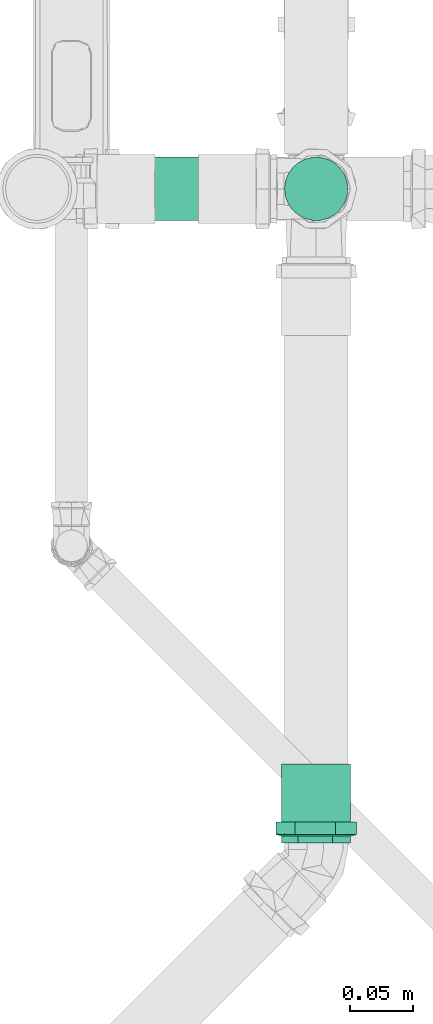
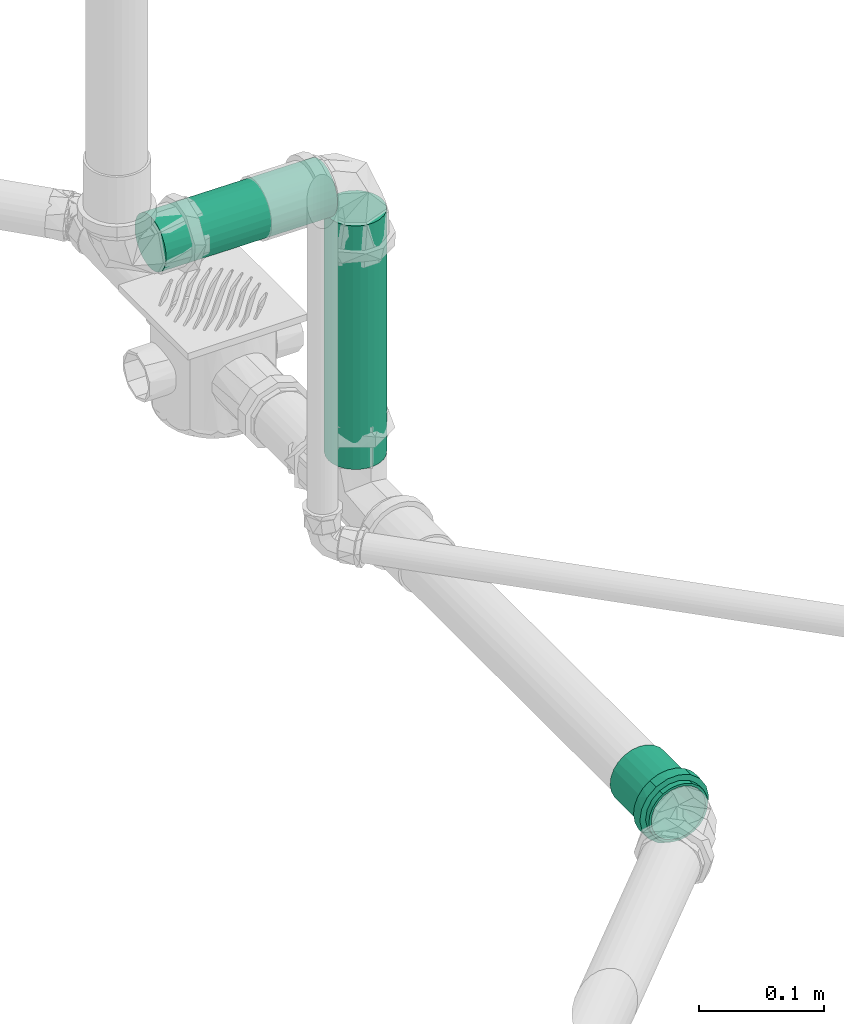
# One storey, part 164 of 589: 2 flow segments, 1 flow fitting.
"""IFC2X3 building model written with IfcOpenShell, lengths in millimetres."""

from ifc_helpers import new_model, entity, si_unit, converted_unit, derived_unit, direction, frame, frame_2d, origin, origin_2d_with_axis, place, context, subcontext, project, spatial, circle, extrude, faceted_brep, source, transform, mapped, material, type_object, type_shapes, element, save


model = new_model("IFC2X3")

# Units and contexts
model_context = context("Model", 3, precision=0.01, world=origin(), true_north=direction((6.123031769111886e-17, 1.0)))
body_context = subcontext(model_context, "Body", "Model", "MODEL_VIEW")
ifc_project = project(units=[si_unit("LENGTHUNIT", "METRE", prefix="MILLI"), si_unit("AREAUNIT", "SQUARE_METRE"), si_unit("VOLUMEUNIT", "CUBIC_METRE"), converted_unit("PLANEANGLEUNIT", "DEGREE", entity("IfcRatioMeasure", 0.017453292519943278), si_unit("PLANEANGLEUNIT", "RADIAN"), dimensions=[0, 0, 0, 0, 0, 0, 0]), si_unit("MASSUNIT", "GRAM", prefix="KILO"), derived_unit("MASSDENSITYUNIT", [(si_unit("MASSUNIT", "GRAM", prefix="KILO"), 1), (si_unit("LENGTHUNIT", "METRE"), -3)]), derived_unit("IONCONCENTRATIONUNIT", [(si_unit("MASSUNIT", "GRAM", prefix="KILO"), 1), (si_unit("LENGTHUNIT", "METRE"), -3)]), derived_unit("MOMENTOFINERTIAUNIT", [(si_unit("LENGTHUNIT", "METRE"), 4)]), si_unit("TIMEUNIT", "SECOND"), si_unit("FREQUENCYUNIT", "HERTZ"), si_unit("THERMODYNAMICTEMPERATUREUNIT", "DEGREE_CELSIUS"), derived_unit("THERMALTRANSMITTANCEUNIT", [(si_unit("MASSUNIT", "GRAM", prefix="KILO"), 1), (si_unit("THERMODYNAMICTEMPERATUREUNIT", "KELVIN"), -1), (si_unit("TIMEUNIT", "SECOND"), -3)]), derived_unit("THERMALCONDUCTANCEUNIT", [(si_unit("MASSUNIT", "GRAM", prefix="KILO"), 1), (si_unit("THERMODYNAMICTEMPERATUREUNIT", "KELVIN"), -1), (si_unit("TIMEUNIT", "SECOND"), -3), (si_unit("LENGTHUNIT", "METRE"), 1)]), derived_unit("VOLUMETRICFLOWRATEUNIT", [(si_unit("LENGTHUNIT", "METRE"), 3), (si_unit("TIMEUNIT", "SECOND"), -1)]), derived_unit("MASSFLOWRATEUNIT", [(si_unit("MASSUNIT", "GRAM", prefix="KILO"), 1), (si_unit("TIMEUNIT", "SECOND"), -1)]), derived_unit("ROTATIONALFREQUENCYUNIT", [(si_unit("TIMEUNIT", "SECOND"), -1)]), si_unit("ELECTRICCURRENTUNIT", "AMPERE"), si_unit("ELECTRICVOLTAGEUNIT", "VOLT"), si_unit("POWERUNIT", "WATT"), si_unit("FORCEUNIT", "NEWTON", prefix="KILO"), si_unit("ILLUMINANCEUNIT", "LUX"), si_unit("LUMINOUSFLUXUNIT", "LUMEN"), si_unit("LUMINOUSINTENSITYUNIT", "CANDELA"), derived_unit("USERDEFINED", [(si_unit("MASSUNIT", "GRAM", prefix="KILO"), -1), (si_unit("LENGTHUNIT", "METRE"), -2), (si_unit("TIMEUNIT", "SECOND"), 3), (si_unit("LUMINOUSFLUXUNIT", "LUMEN"), 1)]), derived_unit("USERDEFINED", [(si_unit("MASSUNIT", "GRAM", prefix="KILO"), 1), (si_unit("TIMEUNIT", "SECOND"), -3), (si_unit("LENGTHUNIT", "METRE"), 3), (si_unit("ELECTRICCURRENTUNIT", "AMPERE"), -2)]), derived_unit("SOUNDPOWERUNIT", [(si_unit("MASSUNIT", "GRAM", prefix="KILO"), 1), (si_unit("TIMEUNIT", "SECOND"), -3), (si_unit("LENGTHUNIT", "METRE"), 2)]), derived_unit("SOUNDPRESSUREUNIT", [(si_unit("MASSUNIT", "GRAM", prefix="KILO"), 1), (si_unit("LENGTHUNIT", "METRE"), -1), (si_unit("TIMEUNIT", "SECOND"), -2)]), derived_unit("LINEARVELOCITYUNIT", [(si_unit("LENGTHUNIT", "METRE"), 1), (si_unit("TIMEUNIT", "SECOND"), -1)]), si_unit("PRESSUREUNIT", "PASCAL"), derived_unit("USERDEFINED", [(si_unit("MASSUNIT", "GRAM", prefix="KILO"), 1), (si_unit("LENGTHUNIT", "METRE"), -2), (si_unit("TIMEUNIT", "SECOND"), -2)]), derived_unit("LINEARFORCEUNIT", [(si_unit("MASSUNIT", "GRAM", prefix="KILO"), 1), (si_unit("TIMEUNIT", "SECOND"), -2)]), derived_unit("PLANARFORCEUNIT", [(si_unit("MASSUNIT", "GRAM", prefix="KILO"), 1), (si_unit("LENGTHUNIT", "METRE"), -1), (si_unit("TIMEUNIT", "SECOND"), -2)]), derived_unit("SPECIFICHEATCAPACITYUNIT", [(si_unit("THERMODYNAMICTEMPERATUREUNIT", "KELVIN"), -1), (si_unit("LENGTHUNIT", "METRE"), 2), (si_unit("TIMEUNIT", "SECOND"), -2)]), derived_unit("HEATINGVALUEUNIT", [(si_unit("LENGTHUNIT", "METRE"), 2), (si_unit("TIMEUNIT", "SECOND"), -2)]), derived_unit("VAPORPERMEABILITYUNIT", [(si_unit("LENGTHUNIT", "METRE"), -1), (si_unit("TIMEUNIT", "SECOND"), 1)]), derived_unit("DYNAMICVISCOSITYUNIT", [(si_unit("MASSUNIT", "GRAM", prefix="KILO"), 1), (si_unit("TIMEUNIT", "SECOND"), -1), (si_unit("LENGTHUNIT", "METRE"), -1)]), derived_unit("THERMALEXPANSIONCOEFFICIENTUNIT", [(si_unit("THERMODYNAMICTEMPERATUREUNIT", "KELVIN"), -1)]), derived_unit("MODULUSOFELASTICITYUNIT", [(si_unit("MASSUNIT", "GRAM", prefix="KILO"), 1), (si_unit("LENGTHUNIT", "METRE"), -1), (si_unit("TIMEUNIT", "SECOND"), -2)]), derived_unit("ISOTHERMALMOISTURECAPACITYUNIT", [(si_unit("LENGTHUNIT", "METRE"), 3), (si_unit("MASSUNIT", "GRAM", prefix="KILO"), -1)]), derived_unit("MOISTUREDIFFUSIVITYUNIT", [(si_unit("TIMEUNIT", "SECOND"), -1), (si_unit("LENGTHUNIT", "METRE"), 2)])], contexts=[model_context])

# Site, building, storey
site_placement = place(None, origin())
site = spatial("IfcSite", under=ifc_project, at=site_placement, Name="Default", CompositionType="ELEMENT")
building_placement = place(site_placement, origin())
building = spatial("IfcBuilding", under=site, at=building_placement, CompositionType="ELEMENT")
storey_placement = place(building_placement, frame((0.0, 0.0, 100.0)))
storey = spatial("IfcBuildingStorey", under=building, at=storey_placement, Name="TÉRREO", CompositionType="ELEMENT", Elevation=100.0)

# Flow segments
pipe_segment_type = type_object("IfcPipeSegmentType", Name="Tipos de tubos:PVC Esgoto Série Normal", PredefinedType="NOTDEFINED")
flow_segment_1_placement = place(storey_placement, origin())
element("IfcFlowSegment", 1, at=flow_segment_1_placement, inside=storey, type_object=pipe_segment_type, Name="Tipos de tubos:PVC Esgoto Série Normal", ObjectType="Tipos de tubos:PVC Esgoto Série Normal", context=body_context, shape_type="SweptSolid", body=[
    extrude(circle(Radius=25.0, at=origin_2d_with_axis()), frame((11855.917911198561, -6666.695187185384, 81.89060246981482), z_axis=(0.9999500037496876, 0.0, -0.00999950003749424), x_axis=(0.0, 1.0, 0.0)), (0.0, 0.0, 1.0), 158.1283997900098),
])
flow_segment_2_placement = place(storey_placement, origin())
element("IfcFlowSegment", 2, at=flow_segment_2_placement, inside=storey, type_object=pipe_segment_type, Name="Tipos de tubos:PVC Esgoto Série Normal", ObjectType="Tipos de tubos:PVC Esgoto Série Normal", context=body_context, shape_type="SweptSolid", body=[
    extrude(circle(Radius=25.0, at=frame_2d((0.0, -1.0828671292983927e-12), x_axis=(1.0, 0.0))), frame((12044.978158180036, -6666.695187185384, -188.3106242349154), z_axis=(0.0, 0.0, 1.0), x_axis=(-1.0, 0.0, 0.0)), (0.0, 0.0, 1.0), 237.36932426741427),
])

# Flow fitting
ifc_material = material(Name="PVC Série Normal")
pipe_fitting_type = type_object("IfcPipeFittingType", Name="PVC Esgoto_Luva Simples para Conexão_Rodrigo MEP:Standard", PredefinedType="NOTDEFINED", material=ifc_material)
shared_shape = source(origin(), body_context, "Body", "Brep", [
    faceted_brep([(16.599999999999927, 15.900000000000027, -27.53960784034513), (16.599999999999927, 22.485995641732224, -22.485995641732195), (16.599999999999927, 13.599999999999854, -23.555890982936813), (16.599999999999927, 7.039878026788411, -26.273182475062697), (16.599999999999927, 8.2304456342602, -30.71644127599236), (16.599999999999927, 19.233304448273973, -19.233304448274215), (16.599999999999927, 27.539607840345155, -15.899999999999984), (16.599999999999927, 23.55589098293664, -13.600000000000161), (16.599999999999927, 26.273182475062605, -7.03987802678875), (16.599999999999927, 30.716441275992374, -8.230445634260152), (16.599999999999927, 27.2, 0.0), (16.599999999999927, 31.8, 0.0), (16.599999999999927, 26.273182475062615, 7.0398780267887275), (16.599999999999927, 30.71644127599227, 8.23044563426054), (16.599999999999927, 23.555890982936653, 13.60000000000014), (16.599999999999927, 27.539607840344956, 15.900000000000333), (16.599999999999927, 19.233304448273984, 19.2333044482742), (16.599999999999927, 22.485995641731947, 22.48599564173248), (16.599999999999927, 13.599999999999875, 23.555890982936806), (16.599999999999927, 15.899999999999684, 27.53960784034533), (16.599999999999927, 7.039878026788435, 26.27318247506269), (16.599999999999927, 8.230445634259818, 30.716441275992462), (16.599999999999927, 0.0, 27.2), (16.599999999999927, 0.0, 31.8), (16.599999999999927, -7.039878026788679, 26.273182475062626), (16.599999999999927, -8.230445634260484, 30.716441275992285), (16.599999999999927, -13.600000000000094, 23.555890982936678), (16.599999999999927, -15.900000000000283, 27.53960784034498), (16.599999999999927, -19.23330444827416, 19.233304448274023), (16.599999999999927, -22.485995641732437, 22.48599564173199), (16.599999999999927, -23.55589098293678, 13.59999999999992), (16.599999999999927, -27.539607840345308, 15.899999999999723), (16.599999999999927, -30.71644127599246, 8.230445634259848), (16.599999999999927, -26.273182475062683, 7.039878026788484), (16.599999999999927, -31.8, 0.0), (16.599999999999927, -27.2, 0.0), (16.599999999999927, -30.71644127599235, -8.23044563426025), (16.599999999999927, -26.273182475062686, -7.03987802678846), (16.599999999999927, -27.53960784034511, -15.90000000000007), (16.599999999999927, -23.55589098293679, -13.599999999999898), (16.599999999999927, -22.485995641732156, -22.485995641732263), (16.599999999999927, -19.233304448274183, -19.233304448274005), (16.599999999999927, -15.899999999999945, -27.53960784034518), (16.599999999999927, -13.600000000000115, -23.555890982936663), (16.599999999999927, -8.230445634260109, -30.716441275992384), (16.599999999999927, -7.039878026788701, -26.273182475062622), (16.599999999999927, 0.0, -31.8), (16.599999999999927, 0.0, -27.2), (6.500000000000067, -10.708108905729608, 29.429219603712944), (6.500000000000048, -24.359073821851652, 20.44200387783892), (6.500000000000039, -27.120498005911, 15.6595386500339), (6.50000000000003, -29.881922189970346, 10.877073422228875), (6.500000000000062, -15.89769721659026, 27.540937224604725), (6.500000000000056, -20.128385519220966, 23.991470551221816), (6.50000000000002, -30.840961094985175, 5.438536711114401), (6.5000000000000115, -31.8, 0.0), (6.50000000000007, -5.518520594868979, 31.317501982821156), (6.500000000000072, 5.526376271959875, 31.316116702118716), (6.50000000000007, 0.00392783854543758, 31.316809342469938), (6.500000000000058, 20.134403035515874, 23.986420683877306), (6.500000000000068, 10.715490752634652, 29.42653259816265), (6.500000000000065, 15.904605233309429, 27.536948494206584), (6.500000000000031, 29.8846497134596, 10.869577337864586), (6.500000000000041, 27.12442527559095, 15.652735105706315), (6.5000000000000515, 24.364200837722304, 20.435892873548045), (6.5000000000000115, 31.8, 0.0), (6.499999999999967, 24.364200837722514, -20.435892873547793), (6.499999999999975, 27.12442527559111, -15.652735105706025), (6.499999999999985, 29.884649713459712, -10.869577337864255), (6.4999999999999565, 15.904605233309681, -27.53694849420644), (6.499999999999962, 20.134403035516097, -23.986420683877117), (6.499999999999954, 10.715490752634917, -29.42653259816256), (6.499999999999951, 5.526376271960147, -31.31611670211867), (6.499999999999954, -5.518520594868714, -31.317501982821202), (6.499999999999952, 0.003927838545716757, -31.316809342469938), (6.499999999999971, -20.128385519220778, -23.99147055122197), (6.499999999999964, -15.897697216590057, -27.54093722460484), (6.499999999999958, -10.70810890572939, -29.42921960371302), (6.499999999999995, -29.881922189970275, -10.877073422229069), (6.499999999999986, -27.12049800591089, -15.659538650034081), (6.499999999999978, -24.359073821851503, -20.442003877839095), (6.500000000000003, -30.840961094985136, -5.438536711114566), (6.499999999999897, -30.696173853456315, -6.259599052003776), (62.0, 13.600000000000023, -23.55589098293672), (62.0, 19.233304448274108, -19.23330444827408), (62.0, 12.499999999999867, -21.650635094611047), (62.0, 6.470476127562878, -24.14814565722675), (62.0, 7.039878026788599, -26.273182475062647), (62.0, 17.677669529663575, -17.677669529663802), (62.0, 23.55589098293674, -13.599999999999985), (62.0, 21.65063509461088, -12.50000000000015), (62.0, 24.148145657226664, -6.470476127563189), (62.0, 26.27318247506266, -7.039878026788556), (62.0, 25.0, 0.0), (62.0, 27.2, 0.0), (62.0, 24.148145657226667, 6.4704761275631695), (62.0, 26.273182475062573, 7.03987802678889), (62.0, 21.650635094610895, 12.500000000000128), (62.0, 23.555890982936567, 13.600000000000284), (62.0, 17.67766952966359, 17.67766952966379), (62.0, 19.233304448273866, 19.233304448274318), (62.0, 12.499999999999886, 21.650635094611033), (62.0, 13.59999999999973, 23.55589098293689), (62.0, 6.4704761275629, 24.14814565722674), (62.0, 7.039878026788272, 26.273182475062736), (62.0, 0.0, 25.0), (62.0, 0.0, 27.2), (62.0, -6.470476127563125, 24.148145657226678), (62.0, -7.039878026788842, 26.273182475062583), (62.0, -12.500000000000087, 21.650635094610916), (62.0, -13.600000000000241, 23.555890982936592), (62.0, -17.677669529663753, 17.677669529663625), (62.0, -19.233304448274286, 19.2333044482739), (62.0, -21.65063509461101, 12.499999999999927), (62.0, -23.555890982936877, 13.599999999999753), (62.0, -26.27318247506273, 7.039878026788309), (62.0, -24.14814565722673, 6.470476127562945), (62.0, -27.2, 0.0), (62.0, -25.0, 0.0), (62.0, -26.27318247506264, -7.0398780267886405), (62.0, -24.148145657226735, -6.470476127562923), (62.0, -23.5558909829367, -13.600000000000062), (62.0, -21.650635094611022, -12.499999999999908), (62.0, -19.233304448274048, -19.233304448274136), (62.0, -17.67766952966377, -17.677669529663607), (62.0, -13.599999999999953, -23.555890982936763), (62.0, -12.500000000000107, -21.650635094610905), (62.0, -7.039878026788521, -26.27318247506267), (62.0, -6.470476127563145, -24.148145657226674), (62.0, 0.0, -27.2), (62.0, 0.0, -25.0), (0.0, 12.499999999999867, -21.650635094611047), (0.0, 19.233304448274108, -19.23330444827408), (0.0, 13.600000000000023, -23.55589098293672), (0.0, 6.470476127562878, -24.14814565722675), (0.0, 17.677669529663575, -17.677669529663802), (0.0, 23.55589098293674, -13.599999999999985), (0.0, 21.65063509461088, -12.50000000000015), (0.0, 24.148145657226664, -6.470476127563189), (0.0, 26.27318247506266, -7.039878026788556), (0.0, 25.0, 0.0), (0.0, 27.2, 0.0), (0.0, 24.148145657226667, 6.4704761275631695), (0.0, 26.273182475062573, 7.03987802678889), (0.0, 21.650635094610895, 12.500000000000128), (0.0, 23.555890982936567, 13.600000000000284), (0.0, 17.67766952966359, 17.67766952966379), (0.0, 19.233304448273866, 19.233304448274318), (0.0, 12.499999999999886, 21.650635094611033), (0.0, 13.59999999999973, 23.55589098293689), (0.0, 6.4704761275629, 24.14814565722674), (0.0, 7.039878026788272, 26.273182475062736), (0.0, 0.0, 25.0), (0.0, 0.0, 27.2), (0.0, -6.470476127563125, 24.148145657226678), (0.0, -7.039878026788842, 26.273182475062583), (0.0, -12.500000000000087, 21.650635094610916), (0.0, -13.600000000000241, 23.555890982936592), (0.0, -17.677669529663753, 17.677669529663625), (0.0, -19.233304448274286, 19.2333044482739), (0.0, -21.65063509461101, 12.499999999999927), (0.0, -23.555890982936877, 13.599999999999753), (0.0, -26.27318247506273, 7.039878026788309), (0.0, -24.14814565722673, 6.470476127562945), (0.0, -27.2, 0.0), (0.0, -25.0, 0.0), (0.0, -26.27318247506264, -7.0398780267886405), (0.0, -24.148145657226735, -6.470476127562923), (0.0, -23.5558909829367, -13.600000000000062), (0.0, -21.650635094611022, -12.499999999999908), (0.0, -19.233304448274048, -19.233304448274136), (0.0, -17.67766952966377, -17.677669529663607), (0.0, -13.599999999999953, -23.555890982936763), (0.0, -12.500000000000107, -21.650635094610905), (0.0, -7.039878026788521, -26.27318247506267), (0.0, -6.470476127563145, -24.148145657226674), (0.0, 0.0, -27.2), (0.0, 0.0, -25.0), (0.0, 7.039878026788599, -26.273182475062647), (5.300000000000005, -26.37968999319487, 4.651830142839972), (5.299999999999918, -26.25584678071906, 5.354122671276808), (5.300000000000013, -25.559379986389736, 9.303660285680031), (5.300000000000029, -20.835434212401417, 17.48498444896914), (5.300000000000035, -17.216732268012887, 20.521006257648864), (5.300000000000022, -23.19740709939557, 13.394322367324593), (5.3000000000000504, -4.720244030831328, 26.787297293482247), (5.300000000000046, -9.15913717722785, 25.172162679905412), (5.299999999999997, -27.2, 0.0), (5.300000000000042, -13.598030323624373, 23.557028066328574), (5.300000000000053, 9.165451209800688, 25.169864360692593), (5.300000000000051, 13.603939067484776, 23.55361632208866), (5.300000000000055, 4.7269633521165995, 26.786112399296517), (5.300000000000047, 17.221879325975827, 20.516686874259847), (5.300000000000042, 20.839819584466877, 17.479757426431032), (5.3000000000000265, 25.56171296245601, 9.297248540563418), (5.299999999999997, 27.2, 0.0), (5.3000000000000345, 23.20076627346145, 13.388502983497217), (5.300000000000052, 0.003359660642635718, 26.786704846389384), (5.299999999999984, 25.56171296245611, -9.29724854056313), (5.299999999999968, 20.839819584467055, -17.47975742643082), (5.2999999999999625, 17.22187932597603, -20.516686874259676), (5.299999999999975, 23.200766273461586, -13.388502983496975), (5.299999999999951, 4.726963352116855, -26.78611239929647), (5.2999999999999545, 9.165451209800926, -25.169864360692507), (5.299999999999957, 13.603939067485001, -23.553616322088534), (5.29999999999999, -26.379689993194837, -4.651830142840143), (5.299999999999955, -9.159137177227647, -25.17216267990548), (5.299999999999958, -13.5980303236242, -23.55702806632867), (5.299999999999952, -4.720244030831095, -26.787297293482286), (5.299999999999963, -17.216732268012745, -20.52100625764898), (5.299999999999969, -20.83543421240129, -17.484984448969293), (5.299999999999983, -25.559379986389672, -9.303660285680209), (5.299999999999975, -23.197407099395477, -13.394322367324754), (5.299999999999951, 0.003359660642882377, -26.78670484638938), (39.0, -25.0, 0.0), (39.0, 25.0, 0.0)], [[[0, 1, 2]], [[0, 2, 3]], [[3, 4, 0]], [[2, 1, 5]], [[6, 5, 1]], [[7, 5, 6]], [[8, 7, 6]], [[8, 6, 9]], [[8, 9, 10]], [[10, 9, 11]], [[12, 10, 11]], [[12, 11, 13]], [[14, 12, 13]], [[14, 13, 15]], [[16, 14, 15]], [[15, 17, 16]], [[17, 18, 16]], [[17, 19, 18]], [[18, 19, 20]], [[21, 20, 19]], [[20, 21, 22]], [[22, 21, 23]], [[22, 23, 24]], [[24, 23, 25]], [[24, 25, 26]], [[27, 26, 25]], [[27, 28, 26]], [[28, 27, 29]], [[30, 28, 29]], [[31, 30, 29]], [[32, 30, 31]], [[33, 30, 32]], [[33, 32, 34]], [[35, 33, 34]], [[36, 35, 34]], [[36, 37, 35]], [[37, 36, 38]], [[39, 37, 38]], [[39, 38, 40]], [[39, 40, 41]], [[40, 42, 41]], [[41, 42, 43]], [[43, 42, 44]], [[44, 45, 43]], [[46, 45, 44]], [[4, 47, 46]], [[46, 47, 45]], [[4, 3, 47]], [[48, 27, 25]], [[31, 29, 49]], [[31, 49, 50, 51]], [[52, 53, 27]], [[32, 51, 54]], [[54, 55, 34]], [[54, 34, 32]], [[25, 56, 48]], [[49, 29, 53]], [[23, 57, 58, 56]], [[59, 19, 17]], [[27, 53, 29]], [[48, 52, 27]], [[31, 51, 32]], [[57, 23, 21]], [[60, 19, 61]], [[15, 62, 63, 64]], [[19, 60, 21]], [[15, 13, 62]], [[17, 64, 59]], [[57, 21, 60]], [[23, 56, 25]], [[15, 64, 17]], [[13, 65, 62]], [[13, 11, 65]], [[59, 61, 19]], [[65, 11, 9]], [[6, 1, 66]], [[6, 66, 67, 68]], [[69, 70, 0]], [[68, 65, 9]], [[71, 69, 0]], [[71, 0, 4]], [[4, 72, 71]], [[66, 1, 70]], [[46, 73, 74, 72]], [[75, 76, 42]], [[0, 70, 1]], [[75, 42, 40]], [[6, 68, 9]], [[73, 46, 44]], [[77, 42, 76]], [[38, 78, 79, 80]], [[42, 77, 44]], [[38, 36, 78]], [[40, 80, 75]], [[73, 44, 77]], [[46, 72, 4]], [[38, 80, 40]], [[36, 81, 82, 78]], [[55, 81, 34]], [[34, 81, 36]], [[83, 84, 85]], [[83, 85, 86]], [[86, 87, 83]], [[85, 84, 88]], [[89, 88, 84]], [[88, 89, 90]], [[90, 89, 91]], [[92, 91, 89]], [[92, 93, 91]], [[93, 92, 94]], [[95, 93, 94]], [[94, 96, 95]], [[95, 96, 97]], [[98, 97, 96]], [[97, 98, 99]], [[99, 98, 100]], [[101, 99, 100]], [[100, 102, 101]], [[101, 102, 103]], [[104, 103, 102]], [[103, 104, 105]], [[105, 104, 106]], [[105, 106, 107]], [[107, 106, 108]], [[107, 108, 109]], [[110, 109, 108]], [[110, 111, 109]], [[111, 110, 112]], [[112, 113, 111]], [[114, 113, 112]], [[113, 114, 115]], [[115, 116, 113]], [[117, 116, 115]], [[117, 118, 116]], [[119, 118, 117]], [[119, 120, 118]], [[120, 119, 121]], [[121, 122, 120]], [[122, 121, 123]], [[122, 123, 124]], [[123, 125, 124]], [[124, 125, 126]], [[126, 125, 127]], [[127, 128, 126]], [[129, 128, 127]], [[87, 130, 129]], [[129, 130, 128]], [[87, 86, 130]], [[131, 132, 133]], [[134, 131, 133]], [[135, 132, 131]], [[132, 135, 136]], [[137, 136, 135]], [[138, 136, 137]], [[136, 138, 139]], [[138, 140, 139]], [[141, 139, 140]], [[141, 140, 142]], [[142, 143, 141]], [[144, 143, 142]], [[143, 144, 145]], [[146, 145, 144]], [[147, 145, 146]], [[147, 146, 148]], [[148, 149, 147]], [[150, 149, 148]], [[149, 150, 151]], [[152, 151, 150]], [[153, 151, 152]], [[154, 153, 152]], [[155, 153, 154]], [[156, 155, 154]], [[155, 156, 157]], [[156, 158, 157]], [[159, 157, 158]], [[158, 160, 159]], [[159, 160, 161]], [[162, 161, 160]], [[160, 163, 162]], [[162, 163, 164]], [[163, 165, 164]], [[164, 165, 166]], [[165, 167, 166]], [[168, 166, 167]], [[167, 169, 168]], [[170, 168, 169]], [[171, 170, 169]], [[171, 172, 170]], [[173, 172, 171]], [[174, 172, 173]], [[173, 175, 174]], [[174, 175, 176]], [[175, 177, 176]], [[177, 134, 178]], [[176, 177, 178]], [[133, 178, 134]], [[162, 179, 180, 181]], [[159, 182, 183]], [[182, 161, 181, 184]], [[185, 155, 186]], [[161, 162, 181]], [[187, 179, 164]], [[183, 188, 157]], [[183, 157, 159]], [[161, 182, 159]], [[189, 190, 149]], [[189, 149, 151]], [[157, 188, 186]], [[157, 186, 155]], [[153, 155, 185]], [[164, 179, 162]], [[151, 191, 189]], [[147, 192, 193]], [[143, 194, 195]], [[194, 145, 193, 196]], [[143, 195, 141]], [[10, 12, 96, 94]], [[149, 192, 147]], [[153, 185, 197, 191]], [[153, 191, 151]], [[145, 147, 193]], [[190, 192, 149]], [[145, 194, 143]], [[139, 195, 198]], [[132, 199, 200]], [[199, 136, 198, 201]], [[202, 178, 203]], [[136, 139, 198]], [[139, 141, 195]], [[92, 8, 10, 94]], [[133, 203, 178]], [[200, 204, 133]], [[136, 199, 132]], [[205, 164, 166]], [[206, 207, 172]], [[133, 204, 203]], [[206, 172, 174]], [[176, 178, 202]], [[200, 133, 132]], [[174, 208, 206]], [[170, 209, 210]], [[166, 211, 205]], [[211, 168, 210, 212]], [[168, 211, 166]], [[172, 209, 170]], [[176, 202, 213, 208]], [[176, 208, 174]], [[168, 170, 210]], [[207, 209, 172]], [[205, 187, 164]], [[116, 118, 214, 165, 163]], [[156, 109, 111, 158]], [[111, 113, 160, 158]], [[113, 116, 163, 160]], [[107, 109, 156, 154]], [[154, 152, 105, 107]], [[103, 105, 152, 150]], [[103, 150, 148, 101]], [[142, 95, 97, 144]], [[97, 99, 146, 144]], [[99, 101, 148, 146]], [[93, 95, 142, 140, 215]], [[215, 140, 138, 91, 93]], [[135, 131, 85, 88]], [[90, 91, 138, 137]], [[90, 137, 135, 88]], [[86, 85, 131, 134]], [[134, 177, 130, 86]], [[128, 130, 177, 175]], [[128, 175, 173, 126]], [[167, 120, 122, 169]], [[122, 124, 171, 169]], [[124, 126, 173, 171]], [[118, 120, 167, 165, 214]], [[211, 78, 82, 81, 55, 187, 205]], [[79, 78, 211, 212, 210, 80]], [[75, 80, 210, 209, 207, 76]], [[207, 206, 208, 73, 77, 76]], [[213, 202, 72, 74, 73, 208]], [[203, 204, 69, 71, 72, 202]], [[198, 195, 65, 68]], [[199, 201, 198, 68, 67, 66]], [[204, 200, 199, 66, 70, 69]], [[195, 194, 62, 65]], [[197, 185, 56, 58, 57, 191]], [[63, 62, 194, 196, 193, 64]], [[57, 60, 61, 190, 189, 191]], [[193, 192, 190, 61, 59, 64]], [[48, 56, 185, 186, 188, 52]], [[187, 55, 54, 51, 181, 180, 179]], [[182, 184, 181, 51, 50, 49]], [[188, 183, 182, 49, 53, 52]], [[30, 33, 115, 114]], [[117, 115, 33, 35]], [[26, 28, 112, 110]], [[114, 112, 28, 30]], [[24, 26, 110, 108]], [[108, 106, 22, 24]], [[18, 20, 104, 102]], [[100, 16, 18, 102]], [[12, 14, 98, 96]], [[100, 98, 14, 16]], [[104, 20, 22, 106]], [[89, 7, 8, 92]], [[83, 87, 3, 2]], [[7, 89, 84, 5]], [[83, 2, 5, 84]], [[87, 129, 47, 3]], [[43, 45, 127, 125]], [[123, 41, 43, 125]], [[37, 39, 121, 119]], [[123, 121, 39, 41]], [[35, 37, 119, 117]], [[127, 45, 47, 129]]]),
])
type_shapes(pipe_fitting_type, [shared_shape])
flow_fitting_placement = place(storey_placement, frame((12044.978158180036, -7182.324497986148, -227.7106242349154), z_axis=(-0.028272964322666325, 0.0, 0.9996002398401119), x_axis=(0.0, 1.0, 0.0)))
element("IfcFlowFitting", 3, at=flow_fitting_placement, inside=storey, type_object=pipe_fitting_type, material=ifc_material, Name="PVC Esgoto_Luva Simples para Conexão_Rodrigo MEP:Standard", ObjectType="PVC Esgoto_Luva Simples para Conexão_Rodrigo MEP:Standard", context=body_context, shape_type="MappedRepresentation", body=[
    mapped(shared_shape, transform((0.0, 0.0, 0.0), scale=1.0)),
])

save(model, "model.ifc")
